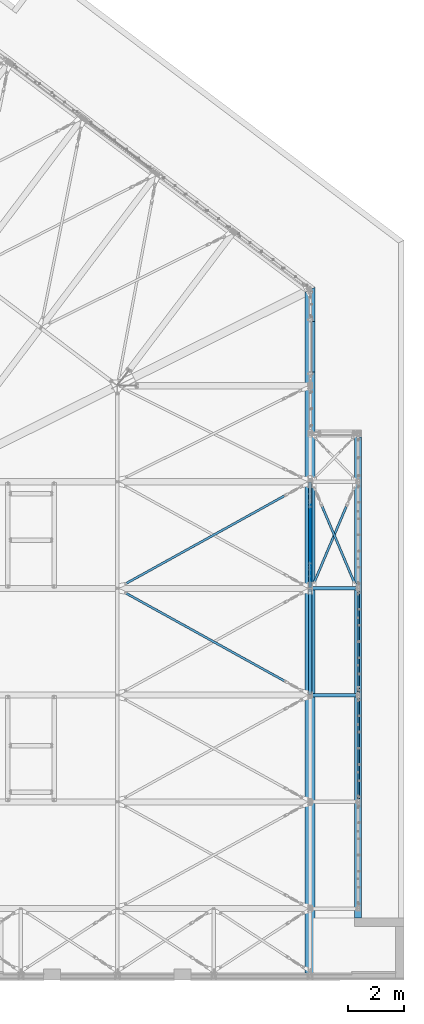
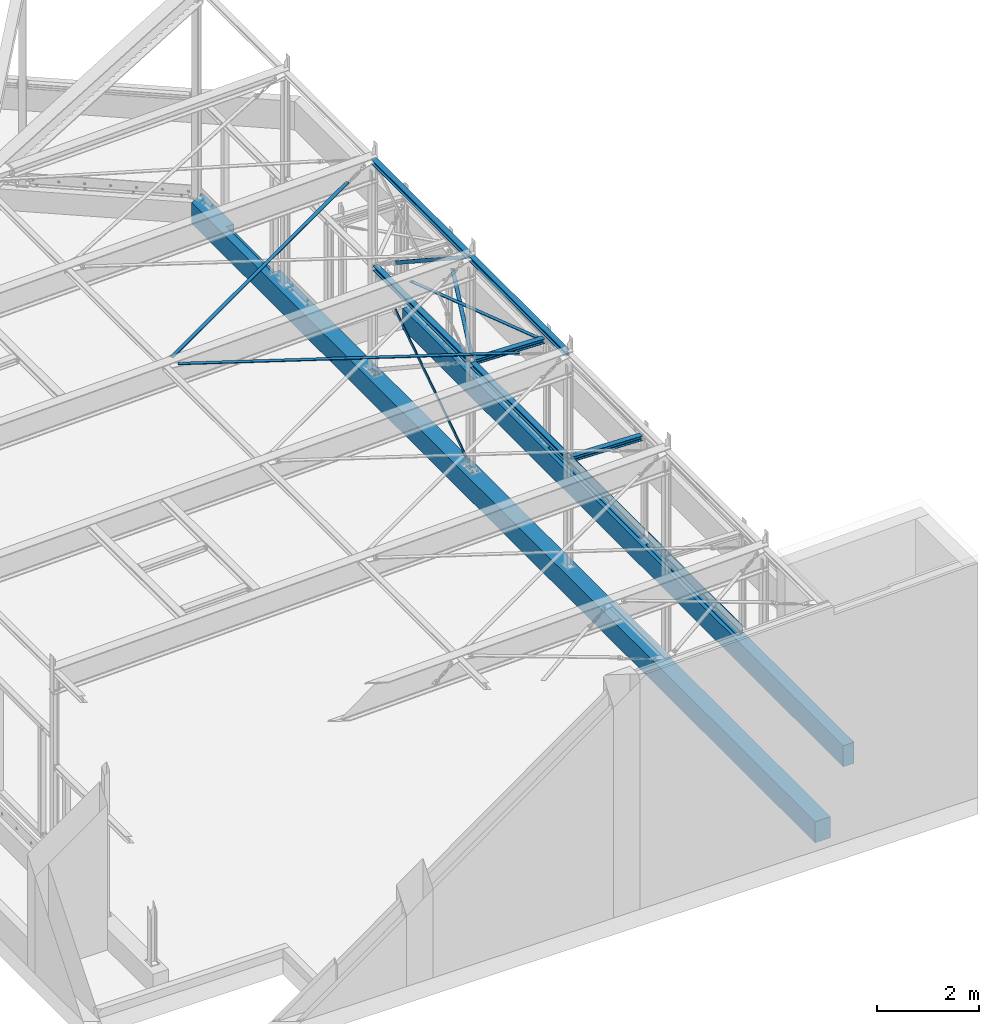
# One storey, part 17 of 476: 8 beams, 8 members, 51 openings.
"""IFC2X3 building model written with IfcOpenShell, lengths in millimetres."""

from ifc_helpers import new_model, entity, si_unit, converted_unit, frame, frame_2d, origin, origin_with_axes, origin_2d, origin_2d_with_axis, place, context, project, spatial, polyline, rectangle, circle, i_section, l_section, outline, extrude, clip, halfspace, material, element, save


model = new_model("IFC2X3")

# Units and contexts
model_context = context("Model", 3, precision=1e-09, world=origin_with_axes())
ifc_project = project(units=[si_unit("LENGTHUNIT", "METRE", prefix="MILLI"), si_unit("AREAUNIT", "SQUARE_METRE"), si_unit("VOLUMEUNIT", "CUBIC_METRE"), converted_unit("PLANEANGLEUNIT", "DEGREE", entity("IfcPlaneAngleMeasure", 0.01745329), si_unit("PLANEANGLEUNIT", "RADIAN"), dimensions=[0, 0, 0, 0, 0, 0, 0])], contexts=[model_context])

# Site, building, storey
site_placement = place(None, origin_with_axes())
site = spatial("IfcSite", under=ifc_project, at=site_placement, Name="mKR Teilneubau & Sanierung BA1 - Ostfildern", CompositionType="ELEMENT")
building_placement = place(site_placement, origin_with_axes())
building = spatial("IfcBuilding", under=site, at=building_placement, Name="Struktur 1", CompositionType="ELEMENT")
storey_placement = place(building_placement, origin_with_axes())
storey = spatial("IfcBuildingStorey", under=building, at=storey_placement, Name="Default Storey", CompositionType="ELEMENT", Elevation=0.0)

# Member, openings
ifc_material_1 = material(Name="S235JR")
member_1_placement = place(None, frame((21128.924203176, -13123.540722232, 5611.516079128), z_axis=(0.874571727, -0.484183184, 0.026285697), x_axis=(0.030041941, 0.0, -0.999548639)))
member_1 = element("IfcMember", 1, at=member_1_placement, inside=storey, material=ifc_material_1, Name="-", ObjectType="-", context=model_context, shape_type="SweptSolid", body=[
    extrude(rectangle(XDim=15.0, YDim=80.0, at=origin_2d()), origin(), (0.0, 0.0, -1.0), 6675.65653727),
])
opening_1_placement = place(member_1_placement, frame((8.0, -0.000317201, -6615.657110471), z_axis=(-1.0, 0.0, 0.0), x_axis=(0.0, 0.0, -1.0)))
element("IfcOpeningElement", 2, at=opening_1_placement, cuts=member_1, ObjectType="Opening", context=model_context, shape_type="SweptSolid", body=[
    extrude(circle(Radius=14.501, at=origin_2d_with_axis()), origin(), (0.0, 0.0, 1.0), 16.0),
])
opening_2_placement = place(member_1_placement, frame((8.0, -0.000317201, -60.000573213), z_axis=(-1.0, 0.0, 0.0), x_axis=(0.0, 0.0, -1.0)))
element("IfcOpeningElement", 3, at=opening_2_placement, cuts=member_1, ObjectType="Opening", context=model_context, shape_type="SweptSolid", body=[
    extrude(circle(Radius=14.501, at=origin_2d_with_axis()), origin(), (0.0, 0.0, 1.0), 16.0),
])

member_2_placement = place(None, frame((21128.924203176, -6407.807035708, 5611.516079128), z_axis=(-0.874571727, -0.484183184, -0.026285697), x_axis=(0.030041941, 0.0, -0.999548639)))
member_2 = element("IfcMember", 4, at=member_2_placement, inside=storey, material=ifc_material_1, Name="-", ObjectType="-", context=model_context, shape_type="SweptSolid", body=[
    extrude(rectangle(XDim=15.0, YDim=80.0, at=origin_2d()), origin(), (0.0, 0.0, 1.0), 6675.65653727),
])
opening_3_placement = place(member_2_placement, frame((8.0, -0.000317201, 45.499573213), z_axis=(1.0, 0.0, 0.0), x_axis=(0.0, 1.0, 0.0)))
element("IfcOpeningElement", 5, at=opening_3_placement, cuts=member_2, ObjectType="Opening", context=model_context, shape_type="SweptSolid", body=[
    extrude(circle(Radius=14.501, at=frame_2d((0.0, 14.501), x_axis=(1.0, 0.0))), origin(), (0.0, 0.0, -1.0), 16.0),
])
opening_4_placement = place(member_2_placement, frame((8.0, -0.000317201, 6601.156110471), z_axis=(1.0, 0.0, 0.0), x_axis=(0.0, 1.0, 0.0)))
element("IfcOpeningElement", 6, at=opening_4_placement, cuts=member_2, ObjectType="Opening", context=model_context, shape_type="SweptSolid", body=[
    extrude(circle(Radius=14.501, at=frame_2d((0.0, 14.501), x_axis=(1.0, 0.0))), origin(), (0.0, 0.0, -1.0), 16.0),
])

# Beam, openings
beam_1_placement = place(None, frame((23718.008764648, -13525.67387897, 594.5), z_axis=(0.0, 1.0, 0.0), x_axis=(-1.0, 0.0, 0.0)))
beam_1 = element("IfcBeam", 7, at=beam_1_placement, inside=storey, material=ifc_material_1, Name="-", ObjectType="-", context=model_context, shape_type="SweptSolid", body=[
    extrude(l_section(Depth=250.0, Width=90.0, Thickness=10.0, FilletRadius=15.0, EdgeRadius=7.5, at=frame_2d((30.5, 29.4))), origin(), (0.0, 0.0, 1.0), 3700.0),
])
opening_5_placement = place(beam_1_placement, frame((-115.7, -14.499, 59.621334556), z_axis=(-1.0, 0.0, 0.0), x_axis=(0.0, 0.0, -1.0)))
element("IfcOpeningElement", 8, at=opening_5_placement, cuts=beam_1, ObjectType="Opening", context=model_context, shape_type="SweptSolid", body=[
    extrude(outline(polyline([(0.0, 0.0), (109.622334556, 0.0), (109.622334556, 130.002), (0.0, 130.002), (0.0, 0.0)])), origin(), (0.0, 0.0, -1.0), 290.2),
])
opening_6_placement = place(beam_1_placement, frame((-115.7, -144.501, 3636.999), z_axis=(-1.0, 0.0, 0.0), x_axis=(0.0, 0.0, 1.0)))
element("IfcOpeningElement", 9, at=opening_6_placement, cuts=beam_1, ObjectType="Opening", context=model_context, shape_type="SweptSolid", body=[
    extrude(outline(polyline([(0.0, 0.0), (91.33902001, 0.0), (91.33902001, 130.002), (0.0, 130.002), (0.0, 0.0)])), origin(), (0.0, 0.0, -1.0), 290.2),
])
opening_7_placement = place(beam_1_placement, frame((34.4, -95.0, 1848.310167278), z_axis=(0.0, 1.0, 0.0), x_axis=(0.0, 0.0, 1.0)))
element("IfcOpeningElement", 10, at=opening_7_placement, cuts=beam_1, ObjectType="Opening", context=model_context, shape_type="SweptSolid", body=[
    extrude(circle(Radius=6.001, at=origin_2d_with_axis()), origin(), (0.0, 0.0, 1.0), 11.0),
])
opening_8_placement = place(beam_1_placement, frame((34.4, -95.0, 1848.310167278), z_axis=(0.0, 1.0, 0.0), x_axis=(0.0, 0.0, 1.0)))
element("IfcOpeningElement", 11, at=opening_8_placement, cuts=beam_1, ObjectType="Opening", context=model_context, shape_type="SweptSolid", body=[
    extrude(circle(Radius=6.001, at=frame_2d((850.0, 0.0), x_axis=(1.0, 0.0))), origin(), (0.0, 0.0, 1.0), 11.0),
])
opening_9_placement = place(beam_1_placement, frame((34.4, -95.0, 1848.310167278), z_axis=(0.0, 1.0, 0.0), x_axis=(0.0, 0.0, 1.0)))
element("IfcOpeningElement", 12, at=opening_9_placement, cuts=beam_1, ObjectType="Opening", context=model_context, shape_type="SweptSolid", body=[
    extrude(circle(Radius=6.001, at=frame_2d((-850.0, 0.0), x_axis=(1.0, 0.0))), origin(), (0.0, 0.0, 1.0), 11.0),
])
opening_10_placement = place(beam_1_placement, frame((34.4, -95.0, 1848.310167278), z_axis=(0.0, 1.0, 0.0), x_axis=(0.0, 0.0, 1.0)))
element("IfcOpeningElement", 13, at=opening_10_placement, cuts=beam_1, ObjectType="Opening", context=model_context, shape_type="SweptSolid", body=[
    extrude(circle(Radius=6.001, at=frame_2d((1700.0, 0.0), x_axis=(1.0, 0.0))), origin(), (0.0, 0.0, 1.0), 11.0),
])
opening_11_placement = place(beam_1_placement, frame((34.4, -95.0, 1848.310167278), z_axis=(0.0, 1.0, 0.0), x_axis=(0.0, 0.0, 1.0)))
element("IfcOpeningElement", 14, at=opening_11_placement, cuts=beam_1, ObjectType="Opening", context=model_context, shape_type="SweptSolid", body=[
    extrude(circle(Radius=6.001, at=frame_2d((-1700.0, 0.0), x_axis=(1.0, 0.0))), origin(), (0.0, 0.0, 1.0), 11.0),
])
opening_12_placement = place(beam_1_placement, frame((-5.1, 13.5, 1850.0), z_axis=(-1.0, 0.0, 0.0), x_axis=(0.0, 0.0, 1.0)))
element("IfcOpeningElement", 15, at=opening_12_placement, cuts=beam_1, ObjectType="Opening", context=model_context, shape_type="SweptSolid", body=[
    extrude(circle(Radius=7.001, at=origin_2d_with_axis()), origin(), (0.0, 0.0, 1.0), 11.0),
])
opening_13_placement = place(beam_1_placement, frame((-5.1, 13.5, 1850.0), z_axis=(-1.0, 0.0, 0.0), x_axis=(0.0, 0.0, 1.0)))
element("IfcOpeningElement", 16, at=opening_13_placement, cuts=beam_1, ObjectType="Opening", context=model_context, shape_type="SweptSolid", body=[
    extrude(circle(Radius=7.001, at=frame_2d((580.0, 0.0), x_axis=(1.0, 0.0))), origin(), (0.0, 0.0, 1.0), 11.0),
])
opening_14_placement = place(beam_1_placement, frame((-5.1, 13.5, 1850.0), z_axis=(-1.0, 0.0, 0.0), x_axis=(0.0, 0.0, 1.0)))
element("IfcOpeningElement", 17, at=opening_14_placement, cuts=beam_1, ObjectType="Opening", context=model_context, shape_type="SweptSolid", body=[
    extrude(circle(Radius=7.001, at=frame_2d((-580.0, 0.0), x_axis=(1.0, 0.0))), origin(), (0.0, 0.0, 1.0), 11.0),
])
opening_15_placement = place(beam_1_placement, frame((-5.1, 13.5, 1850.0), z_axis=(-1.0, 0.0, 0.0), x_axis=(0.0, 0.0, 1.0)))
element("IfcOpeningElement", 18, at=opening_15_placement, cuts=beam_1, ObjectType="Opening", context=model_context, shape_type="SweptSolid", body=[
    extrude(circle(Radius=7.001, at=frame_2d((1160.0, 0.0), x_axis=(1.0, 0.0))), origin(), (0.0, 0.0, 1.0), 11.0),
])
opening_16_placement = place(beam_1_placement, frame((-5.1, 13.5, 1850.0), z_axis=(-1.0, 0.0, 0.0), x_axis=(0.0, 0.0, 1.0)))
element("IfcOpeningElement", 19, at=opening_16_placement, cuts=beam_1, ObjectType="Opening", context=model_context, shape_type="SweptSolid", body=[
    extrude(circle(Radius=7.001, at=frame_2d((-1160.0, 0.0), x_axis=(1.0, 0.0))), origin(), (0.0, 0.0, 1.0), 11.0),
])
opening_17_placement = place(beam_1_placement, frame((-5.1, 13.5, 1850.0), z_axis=(-1.0, 0.0, 0.0), x_axis=(0.0, 0.0, 1.0)))
element("IfcOpeningElement", 20, at=opening_17_placement, cuts=beam_1, ObjectType="Opening", context=model_context, shape_type="SweptSolid", body=[
    extrude(circle(Radius=7.001, at=frame_2d((1740.0, 0.0), x_axis=(1.0, 0.0))), origin(), (0.0, 0.0, 1.0), 11.0),
])
opening_18_placement = place(beam_1_placement, frame((-5.1, 13.5, 1850.0), z_axis=(-1.0, 0.0, 0.0), x_axis=(0.0, 0.0, 1.0)))
element("IfcOpeningElement", 21, at=opening_18_placement, cuts=beam_1, ObjectType="Opening", context=model_context, shape_type="SweptSolid", body=[
    extrude(circle(Radius=7.001, at=frame_2d((-1740.0, 0.0), x_axis=(1.0, 0.0))), origin(), (0.0, 0.0, 1.0), 11.0),
])

beam_2_placement = place(None, frame((23718.008764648, -17345.67387897, 594.5), z_axis=(0.0, 1.0, 0.0), x_axis=(-1.0, 0.0, 0.0)))
beam_2 = element("IfcBeam", 22, at=beam_2_placement, inside=storey, material=ifc_material_1, Name="-", ObjectType="-", context=model_context, shape_type="SweptSolid", body=[
    extrude(l_section(Depth=250.0, Width=90.0, Thickness=10.0, FilletRadius=15.0, EdgeRadius=7.5, at=frame_2d((30.5, 29.4))), origin(), (0.0, 0.0, 1.0), 3700.0),
])
opening_19_placement = place(beam_2_placement, frame((-115.7, -14.499, 59.621334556), z_axis=(-1.0, 0.0, 0.0), x_axis=(0.0, 0.0, -1.0)))
element("IfcOpeningElement", 23, at=opening_19_placement, cuts=beam_2, ObjectType="Opening", context=model_context, shape_type="SweptSolid", body=[
    extrude(outline(polyline([(0.0, 0.0), (109.622334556, 0.0), (109.622334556, 130.002), (0.0, 130.002), (0.0, 0.0)])), origin(), (0.0, 0.0, -1.0), 290.2),
])
opening_20_placement = place(beam_2_placement, frame((-115.7, -144.501, 3636.999), z_axis=(-1.0, 0.0, 0.0), x_axis=(0.0, 0.0, 1.0)))
element("IfcOpeningElement", 24, at=opening_20_placement, cuts=beam_2, ObjectType="Opening", context=model_context, shape_type="SweptSolid", body=[
    extrude(outline(polyline([(0.0, 0.0), (91.33902001, 0.0), (91.33902001, 130.002), (0.0, 130.002), (0.0, 0.0)])), origin(), (0.0, 0.0, -1.0), 290.2),
])
opening_21_placement = place(beam_2_placement, frame((34.4, -95.0, 1848.310167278), z_axis=(0.0, 1.0, 0.0), x_axis=(0.0, 0.0, 1.0)))
element("IfcOpeningElement", 25, at=opening_21_placement, cuts=beam_2, ObjectType="Opening", context=model_context, shape_type="SweptSolid", body=[
    extrude(circle(Radius=6.001, at=origin_2d_with_axis()), origin(), (0.0, 0.0, 1.0), 11.0),
])
opening_22_placement = place(beam_2_placement, frame((34.4, -95.0, 1848.310167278), z_axis=(0.0, 1.0, 0.0), x_axis=(0.0, 0.0, 1.0)))
element("IfcOpeningElement", 26, at=opening_22_placement, cuts=beam_2, ObjectType="Opening", context=model_context, shape_type="SweptSolid", body=[
    extrude(circle(Radius=6.001, at=frame_2d((850.0, 0.0), x_axis=(1.0, 0.0))), origin(), (0.0, 0.0, 1.0), 11.0),
])
opening_23_placement = place(beam_2_placement, frame((34.4, -95.0, 1848.310167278), z_axis=(0.0, 1.0, 0.0), x_axis=(0.0, 0.0, 1.0)))
element("IfcOpeningElement", 27, at=opening_23_placement, cuts=beam_2, ObjectType="Opening", context=model_context, shape_type="SweptSolid", body=[
    extrude(circle(Radius=6.001, at=frame_2d((-850.0, 0.0), x_axis=(1.0, 0.0))), origin(), (0.0, 0.0, 1.0), 11.0),
])
opening_24_placement = place(beam_2_placement, frame((34.4, -95.0, 1848.310167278), z_axis=(0.0, 1.0, 0.0), x_axis=(0.0, 0.0, 1.0)))
element("IfcOpeningElement", 28, at=opening_24_placement, cuts=beam_2, ObjectType="Opening", context=model_context, shape_type="SweptSolid", body=[
    extrude(circle(Radius=6.001, at=frame_2d((1700.0, 0.0), x_axis=(1.0, 0.0))), origin(), (0.0, 0.0, 1.0), 11.0),
])
opening_25_placement = place(beam_2_placement, frame((34.4, -95.0, 1848.310167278), z_axis=(0.0, 1.0, 0.0), x_axis=(0.0, 0.0, 1.0)))
element("IfcOpeningElement", 29, at=opening_25_placement, cuts=beam_2, ObjectType="Opening", context=model_context, shape_type="SweptSolid", body=[
    extrude(circle(Radius=6.001, at=frame_2d((-1700.0, 0.0), x_axis=(1.0, 0.0))), origin(), (0.0, 0.0, 1.0), 11.0),
])
opening_26_placement = place(beam_2_placement, frame((-5.1, 13.5, 1850.0), z_axis=(-1.0, 0.0, 0.0), x_axis=(0.0, 0.0, 1.0)))
element("IfcOpeningElement", 30, at=opening_26_placement, cuts=beam_2, ObjectType="Opening", context=model_context, shape_type="SweptSolid", body=[
    extrude(circle(Radius=7.001, at=origin_2d_with_axis()), origin(), (0.0, 0.0, 1.0), 11.0),
])
opening_27_placement = place(beam_2_placement, frame((-5.1, 13.5, 1850.0), z_axis=(-1.0, 0.0, 0.0), x_axis=(0.0, 0.0, 1.0)))
element("IfcOpeningElement", 31, at=opening_27_placement, cuts=beam_2, ObjectType="Opening", context=model_context, shape_type="SweptSolid", body=[
    extrude(circle(Radius=7.001, at=frame_2d((580.0, 0.0), x_axis=(1.0, 0.0))), origin(), (0.0, 0.0, 1.0), 11.0),
])
opening_28_placement = place(beam_2_placement, frame((-5.1, 13.5, 1850.0), z_axis=(-1.0, 0.0, 0.0), x_axis=(0.0, 0.0, 1.0)))
element("IfcOpeningElement", 32, at=opening_28_placement, cuts=beam_2, ObjectType="Opening", context=model_context, shape_type="SweptSolid", body=[
    extrude(circle(Radius=7.001, at=frame_2d((-580.0, 0.0), x_axis=(1.0, 0.0))), origin(), (0.0, 0.0, 1.0), 11.0),
])
opening_29_placement = place(beam_2_placement, frame((-5.1, 13.5, 1850.0), z_axis=(-1.0, 0.0, 0.0), x_axis=(0.0, 0.0, 1.0)))
element("IfcOpeningElement", 33, at=opening_29_placement, cuts=beam_2, ObjectType="Opening", context=model_context, shape_type="SweptSolid", body=[
    extrude(circle(Radius=7.001, at=frame_2d((1160.0, 0.0), x_axis=(1.0, 0.0))), origin(), (0.0, 0.0, 1.0), 11.0),
])
opening_30_placement = place(beam_2_placement, frame((-5.1, 13.5, 1850.0), z_axis=(-1.0, 0.0, 0.0), x_axis=(0.0, 0.0, 1.0)))
element("IfcOpeningElement", 34, at=opening_30_placement, cuts=beam_2, ObjectType="Opening", context=model_context, shape_type="SweptSolid", body=[
    extrude(circle(Radius=7.001, at=frame_2d((-1160.0, 0.0), x_axis=(1.0, 0.0))), origin(), (0.0, 0.0, 1.0), 11.0),
])
opening_31_placement = place(beam_2_placement, frame((-5.1, 13.5, 1850.0), z_axis=(-1.0, 0.0, 0.0), x_axis=(0.0, 0.0, 1.0)))
element("IfcOpeningElement", 35, at=opening_31_placement, cuts=beam_2, ObjectType="Opening", context=model_context, shape_type="SweptSolid", body=[
    extrude(circle(Radius=7.001, at=frame_2d((1740.0, 0.0), x_axis=(1.0, 0.0))), origin(), (0.0, 0.0, 1.0), 11.0),
])
opening_32_placement = place(beam_2_placement, frame((-5.1, 13.5, 1850.0), z_axis=(-1.0, 0.0, 0.0), x_axis=(0.0, 0.0, 1.0)))
element("IfcOpeningElement", 36, at=opening_32_placement, cuts=beam_2, ObjectType="Opening", context=model_context, shape_type="SweptSolid", body=[
    extrude(circle(Radius=7.001, at=frame_2d((-1740.0, 0.0), x_axis=(1.0, 0.0))), origin(), (0.0, 0.0, 1.0), 11.0),
])

# Members
member_3_placement = place(None, frame((23768.367449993, -13585.67387897, 3015.594224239), z_axis=(0.999577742, 0.0, -0.029057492), x_axis=(0.0, -1.0, 0.0)))
element("IfcMember", 37, at=member_3_placement, inside=storey, material=ifc_material_1, Name="-", ObjectType="-", context=model_context, shape_type="Clipping", body=[
    clip(clip(extrude(i_section(OverallWidth=120.0, OverallDepth=114.0, WebThickness=5.0, FlangeThickness=8.0, FilletRadius=12.0, at=origin_2d()), origin(), (0.0, 0.0, -1.0), 1886.313881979), halfspace(frame((-13585.67387897, 3064.336297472, -1632.905263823), z_axis=(0.0, -0.029057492, 0.999577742), x_axis=(-1.0, 0.0, 0.0)), True)), halfspace(frame((-13585.67387897, 3018.934023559, -71.067041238), z_axis=(0.0, 0.029057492, -0.999577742), x_axis=(1.0, 0.0, 0.0)), True)),
])
member_4_placement = place(None, frame((23768.367449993, -9765.67387897, 3015.594224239), z_axis=(0.999577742, 0.0, -0.029057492), x_axis=(0.0, -1.0, 0.0)))
element("IfcMember", 38, at=member_4_placement, inside=storey, material=ifc_material_1, Name="-", ObjectType="-", context=model_context, shape_type="Clipping", body=[
    clip(clip(extrude(i_section(OverallWidth=120.0, OverallDepth=114.0, WebThickness=5.0, FlangeThickness=8.0, FilletRadius=12.0, at=origin_2d()), origin(), (0.0, 0.0, -1.0), 1886.313881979), halfspace(frame((-9765.67387897, 3064.336297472, -1632.905263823), z_axis=(0.0, -0.029057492, 0.999577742), x_axis=(-1.0, 0.0, 0.0)), True)), halfspace(frame((-9765.67387897, 3018.934023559, -71.067041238), z_axis=(0.0, 0.029057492, -0.999577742), x_axis=(1.0, 0.0, 0.0)), True)),
])

# Member, openings
member_5_placement = place(None, frame((22084.590113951, -9618.539190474, 3030.026665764), z_axis=(-0.389273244, -0.921052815, 0.011316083), x_axis=(-0.029057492, 0.0, -0.999577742)))
member_5 = element("IfcMember", 39, at=member_5_placement, inside=storey, material=ifc_material_1, Name="-", ObjectType="-", context=model_context, shape_type="SweptSolid", body=[
    extrude(rectangle(XDim=15.0, YDim=80.0, at=origin_2d()), origin(), (0.0, 0.0, -1.0), 3129.678200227),
])
opening_33_placement = place(member_5_placement, frame((8.0, 0.0, -3069.678200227), z_axis=(-1.0, 0.0, 0.0), x_axis=(0.0, 0.0, -1.0)))
element("IfcOpeningElement", 40, at=opening_33_placement, cuts=member_5, ObjectType="Opening", context=model_context, shape_type="SweptSolid", body=[
    extrude(circle(Radius=14.501, at=origin_2d_with_axis()), origin(), (0.0, 0.0, 1.0), 16.0),
])
opening_34_placement = place(member_5_placement, frame((8.0, 0.0, -60.0), z_axis=(-1.0, 0.0, 0.0), x_axis=(0.0, -0.389437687, -0.921052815)))
element("IfcOpeningElement", 41, at=opening_34_placement, cuts=member_5, ObjectType="Opening", context=model_context, shape_type="SweptSolid", body=[
    extrude(circle(Radius=14.501, at=origin_2d_with_axis()), origin(), (0.0, 0.0, 1.0), 16.0),
])

member_6_placement = place(None, frame((22355.135018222, -6735.940273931, 3022.161988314), z_axis=(-0.389273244, 0.921052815, 0.011316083), x_axis=(-0.029057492, 0.0, -0.999577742)))
member_6 = element("IfcMember", 42, at=member_6_placement, inside=storey, material=ifc_material_1, Name="-", ObjectType="-", context=model_context, shape_type="SweptSolid", body=[
    extrude(rectangle(XDim=15.0, YDim=80.0, at=origin_2d()), origin(), (0.0, 0.0, -1.0), 3129.678200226),
])
opening_35_placement = place(member_6_placement, frame((8.0, 0.0, -60.0), z_axis=(-1.0, 0.0, 0.0), x_axis=(0.0, 0.0, 1.0)))
element("IfcOpeningElement", 43, at=opening_35_placement, cuts=member_6, ObjectType="Opening", context=model_context, shape_type="SweptSolid", body=[
    extrude(circle(Radius=14.501, at=origin_2d_with_axis()), origin(), (0.0, 0.0, 1.0), 16.0),
])
opening_36_placement = place(member_6_placement, frame((8.0, 0.0, -3069.678200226), z_axis=(-1.0, 0.0, 0.0), x_axis=(0.0, -0.389437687, 0.921052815)))
element("IfcOpeningElement", 44, at=opening_36_placement, cuts=member_6, ObjectType="Opening", context=model_context, shape_type="SweptSolid", body=[
    extrude(circle(Radius=14.501, at=origin_2d_with_axis()), origin(), (0.0, 0.0, 1.0), 16.0),
])

member_7_placement = place(None, frame((21980.608765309, -9607.950340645, 5468.519108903), z_axis=(0.0, -0.836140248, 0.548515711), x_axis=(-1.0, 0.0, 0.0)))
member_7 = element("IfcMember", 45, at=member_7_placement, inside=storey, material=ifc_material_1, Name="-", ObjectType="-", context=model_context, shape_type="SweptSolid", body=[
    extrude(rectangle(XDim=15.0, YDim=80.0, at=origin_2d()), origin(), (0.0, 0.0, -1.0), 3362.757895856),
])
opening_37_placement = place(member_7_placement, frame((8.0, 8.776793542, -46.620919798), z_axis=(1.0, 0.0, 0.0), x_axis=(0.0, 1.0, 0.0)))
element("IfcOpeningElement", 46, at=opening_37_placement, cuts=member_7, ObjectType="Opening", context=model_context, shape_type="SweptSolid", body=[
    extrude(circle(Radius=16.001, at=frame_2d((-8.776799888, -13.379080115), x_axis=(1.0, 0.0))), origin(), (0.0, 0.0, -1.0), 16.000000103),
])
opening_38_placement = place(member_7_placement, frame((8.0, 0.0, -3302.757896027), z_axis=(-1.0, 0.0, 0.0), x_axis=(0.0, 0.0, 1.0)))
element("IfcOpeningElement", 47, at=opening_38_placement, cuts=member_7, ObjectType="Opening", context=model_context, shape_type="SweptSolid", body=[
    extrude(circle(Radius=16.001, at=origin_2d_with_axis()), origin(), (0.0, 0.0, 1.0), 16.0),
])

member_8_placement = place(None, frame((21980.609097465, -6794.749863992, 2508.751850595), z_axis=(-3.12e-07, 0.834229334, 0.551417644), x_axis=(-1.0, -2.61e-07, -1.72e-07)))
member_8 = element("IfcMember", 48, at=member_8_placement, inside=storey, material=ifc_material_1, Name="-", ObjectType="-", context=model_context, shape_type="SweptSolid", body=[
    extrude(rectangle(XDim=15.0, YDim=80.0, at=origin_2d()), origin(), (0.0, 0.0, -1.0), 3441.605445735),
])
opening_39_placement = place(member_8_placement, frame((8.000009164, 8.823232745, -3394.953970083), z_axis=(1.0, 0.0, 3.12e-07), x_axis=(0.0, 1.0, 0.0)))
element("IfcOpeningElement", 49, at=opening_39_placement, cuts=member_8, ObjectType="Opening", context=model_context, shape_type="SweptSolid", body=[
    extrude(circle(Radius=16.001, at=frame_2d((-8.823233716, 13.348503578), x_axis=(1.0, 0.0))), origin(), (0.0, 0.0, -1.0), 16.000009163),
])
opening_40_placement = place(member_8_placement, frame((8.0, 0.0, -60.000000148), z_axis=(-1.0, 0.0, 0.0), x_axis=(0.0, 0.0, -1.0)))
element("IfcOpeningElement", 50, at=opening_40_placement, cuts=member_8, ObjectType="Opening", context=model_context, shape_type="SweptSolid", body=[
    extrude(circle(Radius=16.001, at=origin_2d_with_axis()), origin(), (0.0, 0.0, 1.0), 16.0),
])

# Beams
beam_3_placement = place(None, frame((21965.608780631, -5865.915193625, 3068.000017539), z_axis=(0.0, 1.0, 0.0), x_axis=(-1.0, 0.0, 0.0)))
element("IfcBeam", 51, at=beam_3_placement, inside=storey, material=ifc_material_1, Name="-", ObjectType="-", context=model_context, shape_type="Clipping", body=[
    clip(clip(extrude(i_section(OverallWidth=120.0, OverallDepth=114.0, WebThickness=5.0, FlangeThickness=8.0, FilletRadius=12.0, at=origin_2d()), origin(), (0.0, 0.0, -1.0), 3982.51737069), halfspace(frame((21965.608780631, -3068.000017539, -182.759685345), z_axis=(0.0, 0.0, -1.0), x_axis=(-1.0, 0.0, 0.0)), True)), halfspace(frame((21965.608780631, -3068.000017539, -3799.757685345), z_axis=(0.0, 0.0, 1.0), x_axis=(1.0, 0.0, 0.0)), True)),
])
beam_4_placement = place(None, frame((21965.608780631, -9682.915193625, 3068.000017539), z_axis=(0.0, 1.0, 0.0), x_axis=(-1.0, 0.0, 0.0)))
element("IfcBeam", 52, at=beam_4_placement, inside=storey, material=ifc_material_1, Name="-", ObjectType="-", context=model_context, shape_type="Clipping", body=[
    clip(clip(extrude(i_section(OverallWidth=120.0, OverallDepth=114.0, WebThickness=5.0, FlangeThickness=8.0, FilletRadius=12.0, at=origin_2d()), origin(), (0.0, 0.0, -1.0), 3985.51737069), halfspace(frame((21965.608780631, -3068.000017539, -182.759685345), z_axis=(0.0, 0.0, -1.0), x_axis=(-1.0, 0.0, 0.0)), True)), halfspace(frame((21965.608780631, -3068.000017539, -3802.757685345), z_axis=(0.0, 0.0, 1.0), x_axis=(1.0, 0.0, 0.0)), True)),
])

# Beam, openings
beam_5_placement = place(None, frame((21965.608780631, -5865.915193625, 5571.987213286), z_axis=(0.0, 1.0, 0.0), x_axis=(-0.999548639, 0.0, -0.030041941)))
beam_5 = element("IfcBeam", 53, at=beam_5_placement, inside=storey, material=ifc_material_1, Name="-", ObjectType="-", context=model_context, shape_type="Clipping", body=[
    clip(clip(extrude(i_section(OverallWidth=120.0, OverallDepth=114.0, WebThickness=5.0, FlangeThickness=8.0, FilletRadius=12.0, at=origin_2d()), origin(), (0.0, 0.0, -1.0), 3982.51737069), halfspace(frame((22123.087675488, -4909.582702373, -100.759685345), z_axis=(0.0, 0.0, -1.0), x_axis=(-0.999548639, -0.030041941, 0.0)), True)), halfspace(frame((22123.087675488, -4909.582702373, -3881.757685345), z_axis=(0.0, 0.0, 1.0), x_axis=(0.999548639, 0.030041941, 0.0)), True)),
])
opening_41_placement = place(beam_5_placement, frame((0.0, -1.332627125, -82.758685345), z_axis=(0.0, 1.0, 0.0), x_axis=(0.0, 0.0, -1.0)))
element("IfcOpeningElement", 54, at=opening_41_placement, cuts=beam_5, ObjectType="Opening", context=model_context, shape_type="SweptSolid", body=[
    extrude(outline(polyline([(80.0, 45.0), (80.0, 75.0), (18.0, 75.0), (18.0, 45.0), (80.0, 45.0)])), origin(), (0.0, 0.0, 1.0), 59.665254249),
])
opening_42_placement = place(beam_5_placement, frame((0.0, -58.353598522, -82.758685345), z_axis=(0.0, 1.0, 0.0), x_axis=(0.0, 0.0, -1.0)))
element("IfcOpeningElement", 55, at=opening_42_placement, cuts=beam_5, ObjectType="Opening", context=model_context, shape_type="SweptSolid", body=[
    extrude(outline(polyline([(80.0, 45.0), (80.0, 75.0), (18.0, 75.0), (18.0, 45.0), (80.0, 45.0)])), origin(), (0.0, 0.0, 1.0), 59.707197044),
])
opening_43_placement = place(beam_5_placement, frame((0.0, 58.353598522, -3899.758685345), z_axis=(0.0, -1.0, 0.0), x_axis=(0.0, 0.0, 1.0)))
element("IfcOpeningElement", 56, at=opening_43_placement, cuts=beam_5, ObjectType="Opening", context=model_context, shape_type="SweptSolid", body=[
    extrude(outline(polyline([(80.0, 45.0), (80.0, 75.0), (18.0, 75.0), (18.0, 45.0), (80.0, 45.0)])), origin(), (0.0, 0.0, 1.0), 59.707197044),
])
opening_44_placement = place(beam_5_placement, frame((0.0, 1.332627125, -3899.758685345), z_axis=(0.0, -1.0, 0.0), x_axis=(0.0, 0.0, 1.0)))
element("IfcOpeningElement", 57, at=opening_44_placement, cuts=beam_5, ObjectType="Opening", context=model_context, shape_type="SweptSolid", body=[
    extrude(outline(polyline([(80.0, 45.0), (80.0, 75.0), (18.0, 75.0), (18.0, 45.0), (80.0, 45.0)])), origin(), (0.0, 0.0, 1.0), 59.665254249),
])

beam_6_placement = place(None, frame((21965.608780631, -9682.915193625, 5571.987213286), z_axis=(0.0, 1.0, 0.0), x_axis=(-0.999548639, 0.0, -0.030041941)))
beam_6 = element("IfcBeam", 58, at=beam_6_placement, inside=storey, material=ifc_material_1, Name="-", ObjectType="-", context=model_context, shape_type="Clipping", body=[
    clip(clip(extrude(i_section(OverallWidth=120.0, OverallDepth=114.0, WebThickness=5.0, FlangeThickness=8.0, FilletRadius=12.0, at=origin_2d()), origin(), (0.0, 0.0, -1.0), 3985.51737069), halfspace(frame((22123.087675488, -4909.582702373, -100.759685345), z_axis=(0.0, 0.0, -1.0), x_axis=(-0.999548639, -0.030041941, 0.0)), True)), halfspace(frame((22123.087675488, -4909.582702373, -3884.757685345), z_axis=(0.0, 0.0, 1.0), x_axis=(0.999548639, 0.030041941, 0.0)), True)),
])
opening_45_placement = place(beam_6_placement, frame((0.0, -1.332627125, -82.758685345), z_axis=(0.0, 1.0, 0.0), x_axis=(0.0, 0.0, -1.0)))
element("IfcOpeningElement", 59, at=opening_45_placement, cuts=beam_6, ObjectType="Opening", context=model_context, shape_type="SweptSolid", body=[
    extrude(outline(polyline([(80.0, 45.0), (80.0, 75.0), (18.0, 75.0), (18.0, 45.0), (80.0, 45.0)])), origin(), (0.0, 0.0, 1.0), 59.665254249),
])
opening_46_placement = place(beam_6_placement, frame((0.0, -58.353598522, -82.758685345), z_axis=(0.0, 1.0, 0.0), x_axis=(0.0, 0.0, -1.0)))
element("IfcOpeningElement", 60, at=opening_46_placement, cuts=beam_6, ObjectType="Opening", context=model_context, shape_type="SweptSolid", body=[
    extrude(outline(polyline([(80.0, 45.0), (80.0, 75.0), (18.0, 75.0), (18.0, 45.0), (80.0, 45.0)])), origin(), (0.0, 0.0, 1.0), 59.707197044),
])
opening_47_placement = place(beam_6_placement, frame((0.0, 58.353598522, -3902.758685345), z_axis=(0.0, -1.0, 0.0), x_axis=(0.0, 0.0, 1.0)))
element("IfcOpeningElement", 61, at=opening_47_placement, cuts=beam_6, ObjectType="Opening", context=model_context, shape_type="SweptSolid", body=[
    extrude(outline(polyline([(80.0, 45.0), (80.0, 75.0), (18.0, 75.0), (18.0, 45.0), (80.0, 45.0)])), origin(), (0.0, 0.0, 1.0), 59.707197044),
])
opening_48_placement = place(beam_6_placement, frame((0.0, 1.332627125, -3902.758685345), z_axis=(0.0, -1.0, 0.0), x_axis=(0.0, 0.0, 1.0)))
element("IfcOpeningElement", 62, at=opening_48_placement, cuts=beam_6, ObjectType="Opening", context=model_context, shape_type="SweptSolid", body=[
    extrude(outline(polyline([(80.0, 45.0), (80.0, 75.0), (18.0, 75.0), (18.0, 45.0), (80.0, 45.0)])), origin(), (0.0, 0.0, 1.0), 59.665254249),
])

ifc_material_2 = material(Name="C25/30")
beam_7_placement = place(None, frame((21965.608764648, 1454.860529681, 250.0), z_axis=(0.0, 1.0, 0.0), x_axis=(-1.0, 0.0, 0.0)))
beam_7 = element("IfcBeam", 63, at=beam_7_placement, inside=storey, material=ifc_material_2, Name="-", ObjectType="-", context=model_context, shape_type="Clipping", body=[
    clip(extrude(outline(polyline([(175.0, -250.0), (175.0, 250.0), (-175.0, 250.0), (-175.0, -250.0), (175.0, -250.0)])), origin(), (0.0, 0.0, -1.0), 24985.176935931), halfspace(frame((17970.304063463, -250.0, -9479.777180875), z_axis=(-0.445682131, 0.0, -0.895191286), x_axis=(-0.895191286, 0.0, 0.445682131)), True)),
])
opening_49_placement = place(beam_7_placement, frame((175.0, 80.0, -620.162304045), z_axis=(0.0, 1.0, 0.0), x_axis=(-1.0, 0.0, 0.0)))
element("IfcOpeningElement", 64, at=opening_49_placement, cuts=beam_7, ObjectType="Opening", context=model_context, shape_type="SweptSolid", body=[
    extrude(outline(polyline([(174.999061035, -2853.802924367), (350.000938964, -2853.802924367), (350.000938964, -1053.800985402), (174.999061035, -1053.800985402), (174.999061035, -2853.802924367)])), origin(), (0.0, 0.0, 1.0), 270.1),
])
opening_50_placement = place(beam_7_placement, frame((175.0, 350.1, -620.162304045), z_axis=(0.0, -1.0, 0.0), x_axis=(0.0, 0.0, 1.0)))
element("IfcOpeningElement", 65, at=opening_50_placement, cuts=beam_7, ObjectType="Opening", context=model_context, shape_type="SweptSolid", body=[
    extrude(outline(polyline([(-10480.371104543, 250.022861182), (-10720.373104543, 250.022861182), (-10720.373104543, 100.020861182), (-10480.371104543, 100.020861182), (-10480.371104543, 250.022861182)])), origin(), (0.0, 0.0, 1.0), 300.1),
])
opening_51_placement = place(beam_7_placement, frame((175.0, 350.1, -620.162304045), z_axis=(0.0, -1.0, 0.0), x_axis=(0.0, 0.0, 1.0)))
element("IfcOpeningElement", 66, at=opening_51_placement, cuts=beam_7, ObjectType="Opening", context=model_context, shape_type="SweptSolid", body=[
    extrude(outline(polyline([(-6663.371104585, 250.022861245), (-6903.373104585, 250.022861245), (-6903.373104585, 100.020861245), (-6663.371104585, 100.020861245), (-6663.371104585, 250.022861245)])), origin(), (0.0, 0.0, 1.0), 300.1),
])

# Beam
beam_8_placement = place(None, frame((23685.608764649, -21560.673034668, 250.0), z_axis=(0.0, -1.0, 0.0), x_axis=(1.0, 0.0, 0.0)))
element("IfcBeam", 67, at=beam_8_placement, inside=storey, material=ifc_material_2, Name="-", ObjectType="-", context=model_context, shape_type="SweptSolid", body=[
    extrude(outline(polyline([(125.0, -250.0), (125.0, 250.0), (-125.0, 250.0), (-125.0, -250.0), (125.0, -250.0)])), origin(), (0.0, 0.0, -1.0), 17216.569335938),
])

save(model, "model.ifc")
